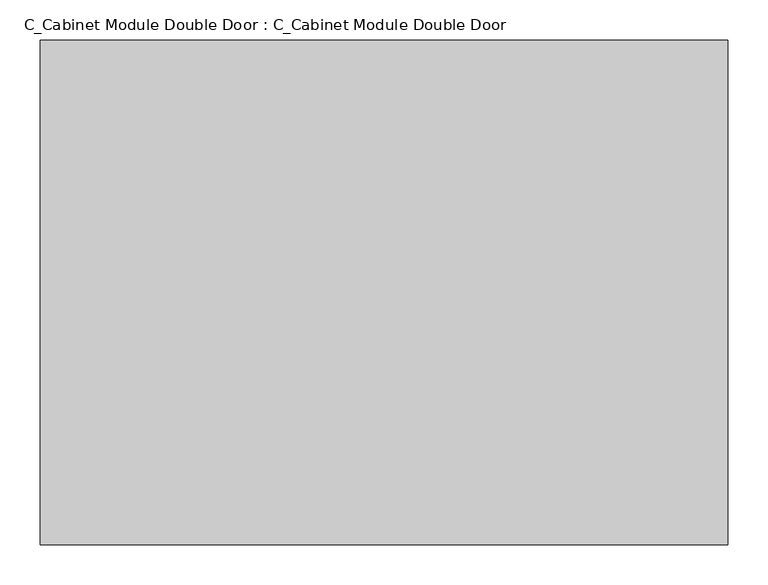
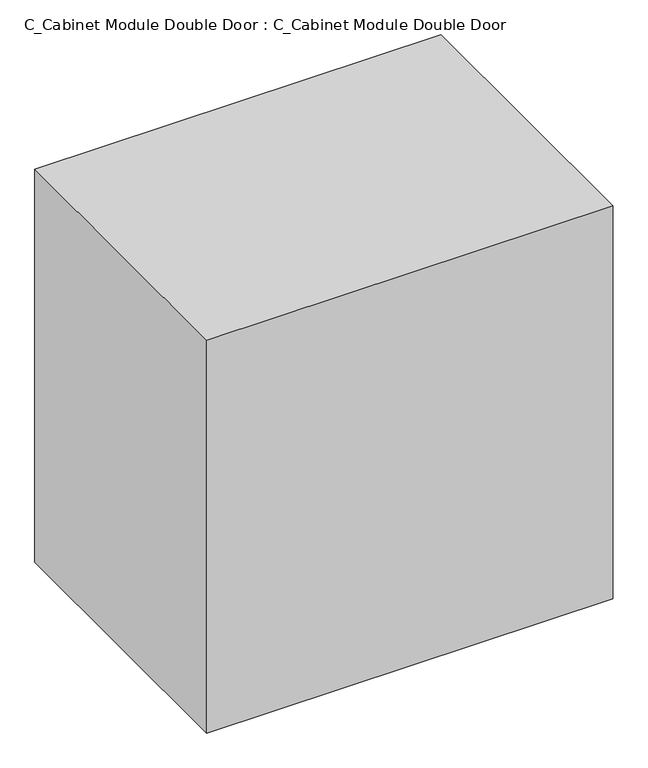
"""IFC4 building model written with IfcOpenShell, lengths in millimetres: furniture geometry, C_Cabinet Module Double Door : C_Cabinet Module Double Door."""

from ifc_helpers import new_model, si_unit, origin, origin_with_axes, place, context, project, spatial, polyline, outline, extrude, source, transform, mapped, element, save


def c_cabinet_module_double_door_c_cabinet_module_double_door_6c25a611(model_context):
    return source(origin(), model_context, "Body", "SweptSolid", [
        extrude(outline(polyline([(428.5753906, 0.0), (-428.5753906, 0.0), (-428.5753906, 628.65), (428.5753906, 628.65), (428.5753906, 0.0)])), origin_with_axes(), (0.0, 0.0, 1.0), 876.3),
    ])


if __name__ == "__main__":
    model = new_model("IFC4")
    model_context = context("Model", 3, world=origin())
    ifc_project = project(units=[si_unit("LENGTHUNIT", "METRE", prefix="MILLI")], contexts=[model_context])
    site = spatial("IfcSite", under=ifc_project)
    building = spatial("IfcBuilding", under=site)
    placement = place(None, origin())
    c_cabinet_module_double_door_c_cabinet_module_double_door_shape = c_cabinet_module_double_door_c_cabinet_module_double_door_6c25a611(model_context)
    element("IfcFurniture", 1, ObjectType="C_Cabinet Module Double Door : C_Cabinet Module Double Door", at=placement, inside=building, context=model_context, shape_type="MappedRepresentation", body=[
        mapped(c_cabinet_module_double_door_c_cabinet_module_double_door_shape, transform((0.0, 0.0, 0.0), x_axis=(1.0, 0.0, 0.0), y_axis=(0.0, 1.0, 0.0), z_axis=(0.0, 0.0, 1.0))),
    ])
    save(model, "model.ifc")
